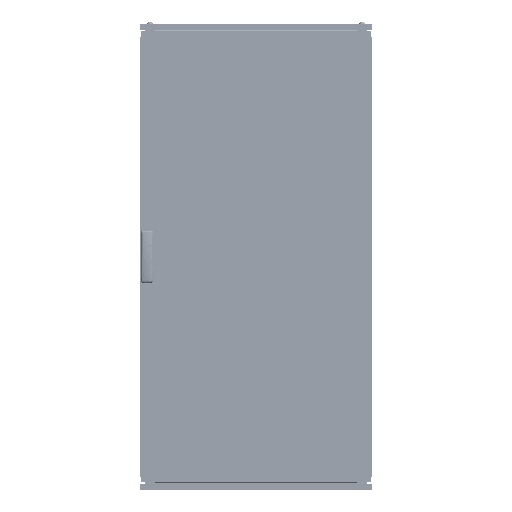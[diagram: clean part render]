
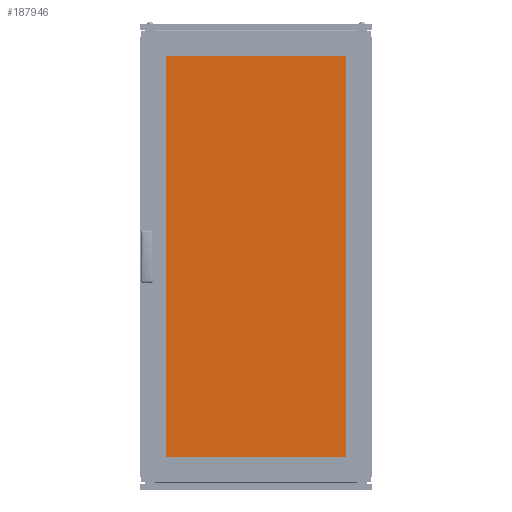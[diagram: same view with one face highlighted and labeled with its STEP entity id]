
A CAD part, top view. The second image highlights one B-rep face of the part: STEP entity #187946.
In plain terms, the highlighted planar face has unit normal (0, 0, 1).
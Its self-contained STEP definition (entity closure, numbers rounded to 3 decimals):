
#23754 = EDGE_LOOP ( 'NONE', ( #65111, #202144, #60505, #79761 ) ) ;
#36806 = VERTEX_POINT ( 'NONE', #190756 ) ;
#47855 = LINE ( 'NONE', #164239, #115937 ) ;
#56320 = CARTESIAN_POINT ( 'NONE',  ( 0., 0., 5. ) ) ;
#58457 = PLANE ( 'NONE',  #190508 ) ;
#60505 = ORIENTED_EDGE ( 'NONE', *, *, #192703, .T. ) ;
#62346 = LINE ( 'NONE', #210256, #154205 ) ;
#65111 = ORIENTED_EDGE ( 'NONE', *, *, #174257, .T. ) ;
#68613 = LINE ( 'NONE', #104513, #118444 ) ;
#70461 = VERTEX_POINT ( 'NONE', #186580 ) ;
#75859 = DIRECTION ( 'NONE',  ( 0., 0., -1. ) ) ;
#79761 = ORIENTED_EDGE ( 'NONE', *, *, #148315, .T. ) ;
#83683 = VECTOR ( 'NONE', #145077, 1000. ) ;
#84367 = VERTEX_POINT ( 'NONE', #109492 ) ;
#90079 = DIRECTION ( 'NONE',  ( -1., 0., 0. ) ) ;
#104513 = CARTESIAN_POINT ( 'NONE',  ( -330., -710., 5. ) ) ;
#109492 = CARTESIAN_POINT ( 'NONE',  ( 330., -710., 5. ) ) ;
#110241 = LINE ( 'NONE', #141872, #83683 ) ;
#115937 = VECTOR ( 'NONE', #196778, 1000. ) ;
#118444 = VECTOR ( 'NONE', #136058, 1000. ) ;
#126144 = CARTESIAN_POINT ( 'NONE',  ( -330., -710., 5. ) ) ;
#136058 = DIRECTION ( 'NONE',  ( 0., -1., 0. ) ) ;
#141872 = CARTESIAN_POINT ( 'NONE',  ( -330., -710., 5. ) ) ;
#145077 = DIRECTION ( 'NONE',  ( 1., 0., 0. ) ) ;
#148315 = EDGE_CURVE ( 'NONE', #186510, #84367, #110241, .T. ) ;
#154205 = VECTOR ( 'NONE', #208128, 1000. ) ;
#164239 = CARTESIAN_POINT ( 'NONE',  ( 330., -710., 5. ) ) ;
#165995 = EDGE_CURVE ( 'NONE', #36806, #70461, #62346, .T. ) ;
#174257 = EDGE_CURVE ( 'NONE', #84367, #36806, #47855, .T. ) ;
#176930 = FACE_OUTER_BOUND ( 'NONE', #23754, .T. ) ;
#186510 = VERTEX_POINT ( 'NONE', #126144 ) ;
#186580 = CARTESIAN_POINT ( 'NONE',  ( -330., 710., 5. ) ) ;
#187946 = ADVANCED_FACE ( 'NONE', ( #176930 ), #58457, .F. ) ;
#190508 = AXIS2_PLACEMENT_3D ( 'NONE', #56320, #75859, #90079 ) ;
#190756 = CARTESIAN_POINT ( 'NONE',  ( 330., 710., 5. ) ) ;
#192703 = EDGE_CURVE ( 'NONE', #70461, #186510, #68613, .T. ) ;
#196778 = DIRECTION ( 'NONE',  ( 0., 1., 0. ) ) ;
#202144 = ORIENTED_EDGE ( 'NONE', *, *, #165995, .T. ) ;
#208128 = DIRECTION ( 'NONE',  ( -1., 0., 0. ) ) ;
#210256 = CARTESIAN_POINT ( 'NONE',  ( -330., 710., 5. ) ) ;
